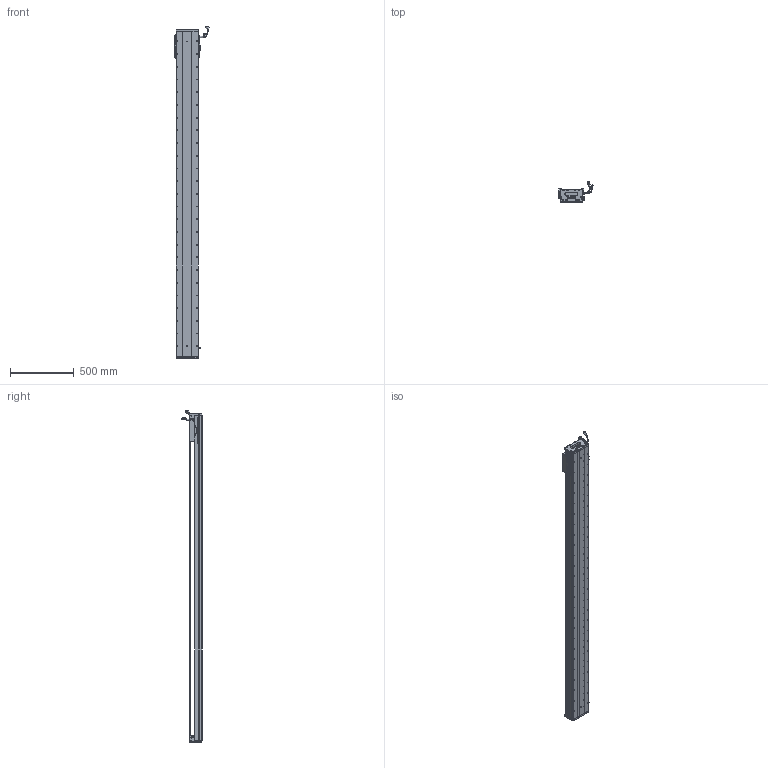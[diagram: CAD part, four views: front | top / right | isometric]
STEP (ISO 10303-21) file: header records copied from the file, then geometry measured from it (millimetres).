
FILE_DESCRIPTION (( 'STEP AP203' ), '1' );
FILE_NAME ('Z2-RY170D-1-L500-B-K.SLDASM_2300.step', '2021-05-17T09:10:28', ( '盈信电脑' ), ( '东莞市道滘镇水果街19号' ), 'SwSTEP 2.0', 'SolidWorks 2016', '' );
FILE_SCHEMA (( 'CONFIG_CONTROL_DESIGN' ));
Length unit declared in the file: millimetre
Products named in the file (36): COVER-Part-1; RY170直线电机感应器672光电感应片; PBU_SHEET; COVER; 170-Z-臏賑輸盄裔(21遴); SCREW-M1.6-3; SHIELDPLATE; HARNESS; Z2-RY170-L500耀郪菁釱_2300; SCREW-M1.6-1; SCALE-Part-1; SCREW-M1.7; HARNESS-Part-2; SCALE; 140雄赽晤鎢ん堤盄; SEAL; LABEL-Part-1; 覜茼ん672; Z-RY170詩湍奻揤裔; 080黍杅芛假蚾釱21遴; LABEL; SEAL-Part-1; PSLH080_PSLF2; Z2-RY170-L500詩湍145mm遵_2300; Z2-RY170D-1-L500-B-K.SLDASM_2300; SCREW-M1.7-1; Z-170詩湍傷裔啣; 榋妏寠巭燃_暯_M2_2; HARNESS-Part-1; 140蚥薯蝶輸; HOLDER0; Z2-RY170臏賑輸(21遴); Z-RY170詩湍狟揤裔; SCREW-M1.6-2; SCREW-M1.6; SCALE-Part-2
Assembly tree (41 placements, depth 4):
  Z2-RY170D-1-L500-B-K.SLDASM_2300
    Z2-RY170-L500耀郪菁釱_2300
    RY170直线电机感应器672光电感应片
    Z2-RY170臏賑輸(21遴)
    覜茼ん672  x3
    PSLH080_PSLF2
      SCALE
        SCALE-Part-1
        SCALE-Part-2
      HARNESS
        HARNESS-Part-1
        HARNESS-Part-2
      LABEL
        LABEL-Part-1
      COVER
        COVER-Part-1
      SEAL
        SEAL-Part-1
      榋妏寠巭燃_暯_M2_2
      SHIELDPLATE
      SCREW-M1.7
      SCREW-M1.7-1
      PBU_SHEET
      SCREW-M1.6
      SCREW-M1.6-1
      SCREW-M1.6-2
      SCREW-M1.6-3
      HOLDER0
    080黍杅芛假蚾釱21遴
    Z2-RY170-L500詩湍145mm遵_2300
    Z-170詩湍傷裔啣  x2
    Z-RY170詩湍奻揤裔  x2
    Z-RY170詩湍狟揤裔  x2
    140蚥薯蝶輸  x2
    170-Z-臏賑輸盄裔(21遴)
    140雄赽晤鎢ん堤盄
Bounding box: 275.29 x 158.11 x 2613.72 mm (x, y, z)
Volume: 12791056.6 mm3; surface area: 3170021.9 mm2
Topology: 36 solids, 36 shells, 4034 faces, 11185 edges, 6985 vertices
Faces by surface type: cylinder 2028, plane 1308, cone 576, torus 69, bspline 53
Entity records: 126933 total; most frequent: CARTESIAN_POINT 35478, ORIENTED_EDGE 18822, DIRECTION 17551, EDGE_CURVE 9411, AXIS2_PLACEMENT_3D 6468, VERTEX_POINT 6103, VECTOR 4615, LINE 4615
